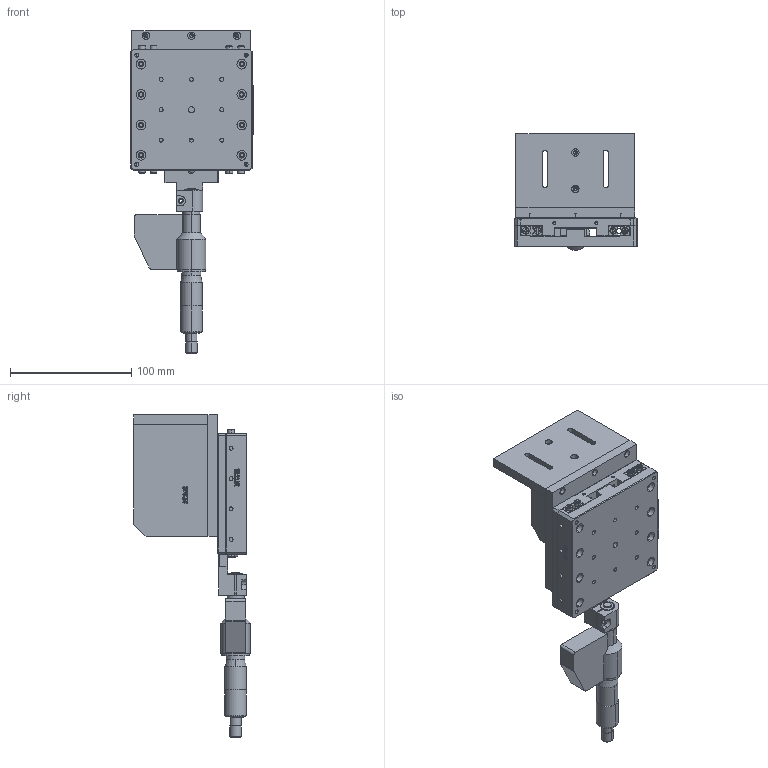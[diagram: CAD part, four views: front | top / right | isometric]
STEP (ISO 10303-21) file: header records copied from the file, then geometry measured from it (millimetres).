
FILE_DESCRIPTION (( 'STEP AP214' ), '1' );
FILE_NAME ('PT-SD25W.STEP', '2022-09-04T07:49:54', ( '' ), ( '' ), 'SwSTEP 2.0', 'SolidWorks 2017', '' );
FILE_SCHEMA (( 'AUTOMOTIVE_DESIGN' ));
Length unit declared in the file: millimetre
Products named in the file (1): PT-SD25W
Bounding box: 101 x 95.75 x 265.5 mm (x, y, z)
Volume: 440436.9 mm3; surface area: 148278.3 mm2
Topology: 14 solids, 14 shells, 1615 faces, 4230 edges, 2732 vertices
Faces by surface type: plane 846, cylinder 390, bspline 307, cone 72
Entity records: 61995 total; most frequent: CARTESIAN_POINT 23396, ORIENTED_EDGE 8344, DIRECTION 7023, EDGE_CURVE 4172, VERTEX_POINT 2732, LINE 2717, VECTOR 2717, AXIS2_PLACEMENT_3D 2153
